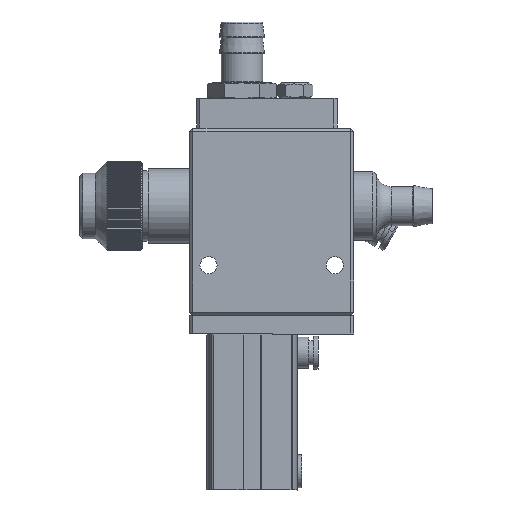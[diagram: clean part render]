
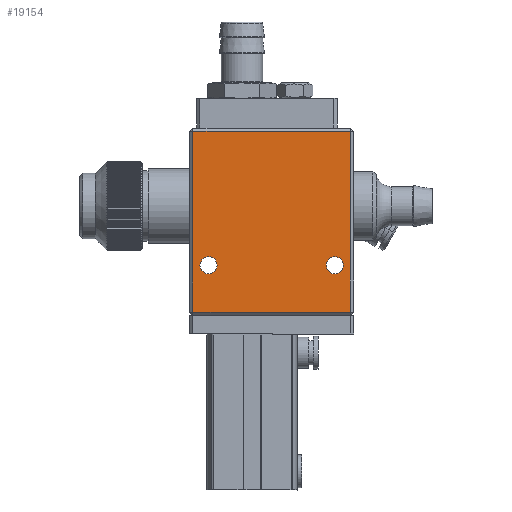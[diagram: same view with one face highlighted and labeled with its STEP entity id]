
A CAD part, left-side view. The second image highlights one B-rep face of the part: STEP entity #19154.
In plain terms, the highlighted planar face has unit normal (-1, 0, 0) as drawn and (1, 0, 0) by its records, which use the part's own axes.
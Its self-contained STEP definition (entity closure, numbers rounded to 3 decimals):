
#1206=FACE_BOUND('',#3558,.T.);
#1207=FACE_BOUND('',#3559,.T.);
#1491=PLANE('',#21584);
#2391=FACE_OUTER_BOUND('',#3557,.T.);
#3557=EDGE_LOOP('',(#15113,#15114,#15115,#15116));
#3558=EDGE_LOOP('',(#15117));
#3559=EDGE_LOOP('',(#15118));
#4726=LINE('',#33242,#5857);
#4730=LINE('',#33251,#5861);
#4734=LINE('',#33257,#5865);
#4738=LINE('',#33263,#5869);
#5857=VECTOR('',#25500,10.);
#5861=VECTOR('',#25508,10.);
#5865=VECTOR('',#25516,10.);
#5869=VECTOR('',#25524,10.);
#7075=CIRCLE('',#21585,2.75);
#7076=CIRCLE('',#21586,2.75);
#8424=VERTEX_POINT('',#33193);
#8433=VERTEX_POINT('',#33215);
#8440=VERTEX_POINT('',#33237);
#8441=VERTEX_POINT('',#33244);
#8457=VERTEX_POINT('',#33307);
#8458=VERTEX_POINT('',#33309);
#10838=EDGE_CURVE('',#8424,#8440,#4726,.T.);
#10842=EDGE_CURVE('',#8441,#8433,#4730,.T.);
#10846=EDGE_CURVE('',#8440,#8441,#4734,.T.);
#10850=EDGE_CURVE('',#8433,#8424,#4738,.T.);
#10873=EDGE_CURVE('',#8457,#8457,#7075,.T.);
#10874=EDGE_CURVE('',#8458,#8458,#7076,.T.);
#15113=ORIENTED_EDGE('',*,*,#10842,.F.);
#15114=ORIENTED_EDGE('',*,*,#10846,.F.);
#15115=ORIENTED_EDGE('',*,*,#10838,.F.);
#15116=ORIENTED_EDGE('',*,*,#10850,.F.);
#15117=ORIENTED_EDGE('',*,*,#10873,.T.);
#15118=ORIENTED_EDGE('',*,*,#10874,.T.);
#19154=ADVANCED_FACE('',(#2391,#1206,#1207),#1491,.T.);
#21584=AXIS2_PLACEMENT_3D('',#33306,#25576,#25577);
#21585=AXIS2_PLACEMENT_3D('',#33308,#25578,#25579);
#21586=AXIS2_PLACEMENT_3D('',#33310,#25580,#25581);
#25500=DIRECTION('',(0.,0.,-1.));
#25508=DIRECTION('',(0.,0.,1.));
#25516=DIRECTION('',(0.,-1.,0.));
#25524=DIRECTION('',(0.,1.,0.));
#25576=DIRECTION('center_axis',(1.,0.,0.));
#25577=DIRECTION('ref_axis',(0.,0.,-1.));
#25578=DIRECTION('center_axis',(-1.,0.,0.));
#25579=DIRECTION('ref_axis',(0.,0.,1.));
#25580=DIRECTION('center_axis',(-1.,0.,0.));
#25581=DIRECTION('ref_axis',(0.,0.,1.));
#33193=CARTESIAN_POINT('',(18.,23.7,29.));
#33215=CARTESIAN_POINT('',(18.,-26.8,29.));
#33237=CARTESIAN_POINT('',(18.,23.7,-29.));
#33242=CARTESIAN_POINT('',(18.,23.7,0.));
#33244=CARTESIAN_POINT('',(18.,-26.8,-29.));
#33251=CARTESIAN_POINT('',(18.,-26.8,0.));
#33257=CARTESIAN_POINT('',(18.,11.575,-29.));
#33263=CARTESIAN_POINT('',(18.,11.575,29.));
#33306=CARTESIAN_POINT('Origin',(18.,24.7,0.));
#33307=CARTESIAN_POINT('',(18.,18.7,11.25));
#33308=CARTESIAN_POINT('Origin',(18.,18.7,14.));
#33309=CARTESIAN_POINT('',(18.,-21.8,11.25));
#33310=CARTESIAN_POINT('Origin',(18.,-21.8,14.));
